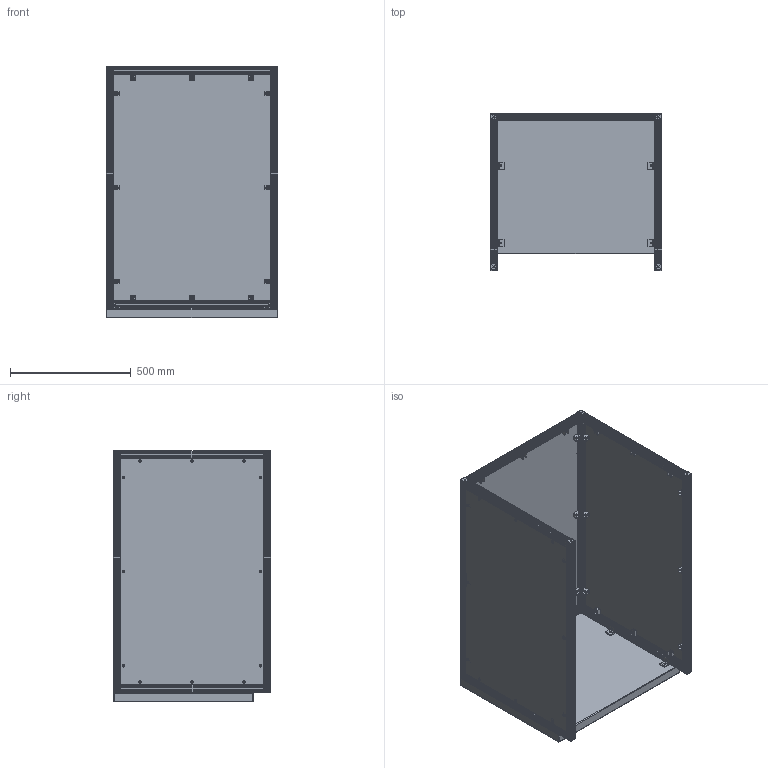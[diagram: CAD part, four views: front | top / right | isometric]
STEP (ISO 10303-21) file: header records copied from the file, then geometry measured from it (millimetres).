
FILE_DESCRIPTION(/* description */ ('Schutzeinhausung dreiseitig, SE65 GB'),/* implementation_level */ '2;1');
FILE_NAME(/* name */ 'P:\CAD-Daten-für-Kunden\13_SE-Umhausungen-Grundplatte-Unterbau\Schutzeinhausung_SE65_GP_ANR35831.stp',/* time_stamp */ '2022-05-16T10:02:06+02:00',/* author */ ('tse'),/* organization */ (''),/* preprocessor_version */ 'ST-DEVELOPER v18',/* originating_system */ 'Autodesk Inventor 2020',/* authorisation */ '');
FILE_SCHEMA (('AUTOMOTIVE_DESIGN { 1 0 10303 214 3 1 1 }'));
Products named in the file (7): 35831; 35843; 35843-1; Schutzeinhausung Scheibe 710x1000; Schutzeinhausung Scheibe 650x1000; Schutzeinhausung - Befestigungswinkel; 35847
Assembly tree (10 placements, depth 3):
  35831
    35843
      35843-1
      Schutzeinhausung Scheibe 710x1000
      Schutzeinhausung Scheibe 650x1000  x2
      Schutzeinhausung - Befestigungswinkel  x4
    35847
Bounding box: 710 x 650 x 1043 mm (x, y, z)
Volume: 26273736.6 mm3; surface area: 7172169.7 mm2
Topology: 9 solids, 9 shells, 3817 faces, 11250 edges, 7240 vertices
Faces by surface type: plane 2849, cylinder 796, cone 92, torus 52, sphere 28
Full cylindrical faces by diameter (mm): 5 x16, 5.5 x20, 6 x88, 7 x44, 10.5 x52
Entity records: 122892 total; most frequent: CARTESIAN_POINT 23918, ORIENTED_EDGE 21460, DIRECTION 19722, EDGE_CURVE 10730, LINE 8212, VECTOR 8212, VERTEX_POINT 6918, AXIS2_PLACEMENT_3D 5755
